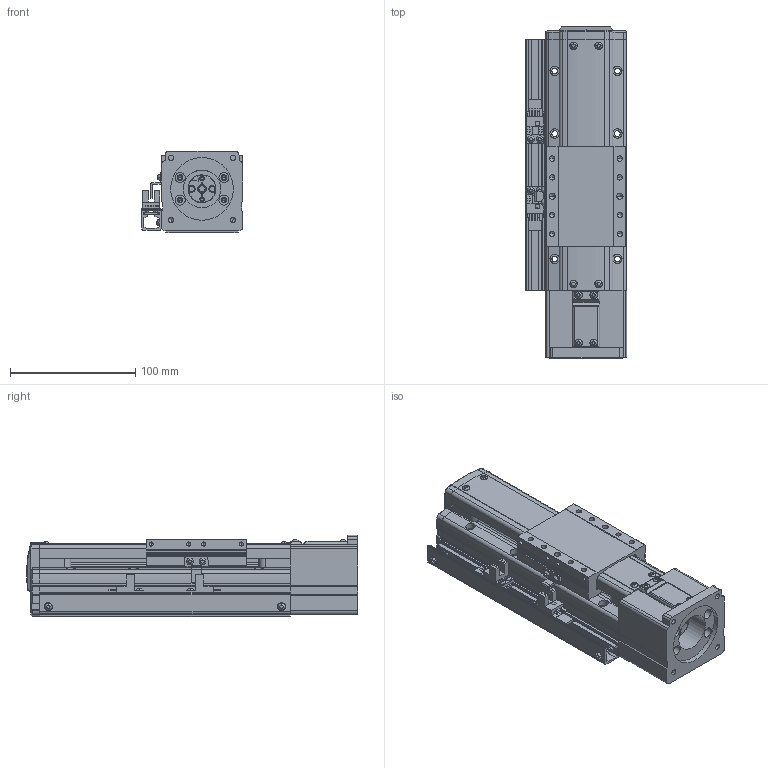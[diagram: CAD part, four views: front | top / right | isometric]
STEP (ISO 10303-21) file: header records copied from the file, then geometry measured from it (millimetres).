
FILE_DESCRIPTION(('STEP AP214'),'1');
FILE_NAME('Z:/Web/3D/PSA65/STP/PSA65-050 (3D)/PSA65ㅁㅁ-050S+2SL.stp','2014-06-25T02:38:13',(' '),(' '),'Spatial InterOp 3D',' ',' ');
FILE_SCHEMA(('automotive_design'));
Length unit declared in the file: millimetre
Products named in the file (94): SLIDE; RRCV-PA060; 1; 2; 3; 4; 5; 6; 7; 8; 9; 10; 11; 12; 13; 14; 15; 16; 17; 18; 19; 20; 21; 22; 23; 24; 25; 26; 27; 28; 29; 30; 31; 스크루 : Round - M3.0 x 8.0; RN8 x 0.75; SHAFT-SAN65; BASE; 스크루 : Round - M3.0 x 6.0; MTHZ - PSA65-60A; CPLCV-SAN45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
Bounding box: 81 x 264.8 x 65 mm (x, y, z)
Volume: 860772.7 mm3; surface area: 182728.2 mm2
Topology: 94 solids, 94 shells, 2642 faces, 6967 edges, 4502 vertices
Faces by surface type: plane 1472, cylinder 774, cone 307, sphere 46, bspline 23, torus 20
Entity records: 106256 total; most frequent: CARTESIAN_POINT 16875, DIRECTION 14317, ORIENTED_EDGE 13750, EDGE_CURVE 6875, AXIS2_PLACEMENT_3D 4922, VERTEX_POINT 4502, LINE 4473, VECTOR 4473
